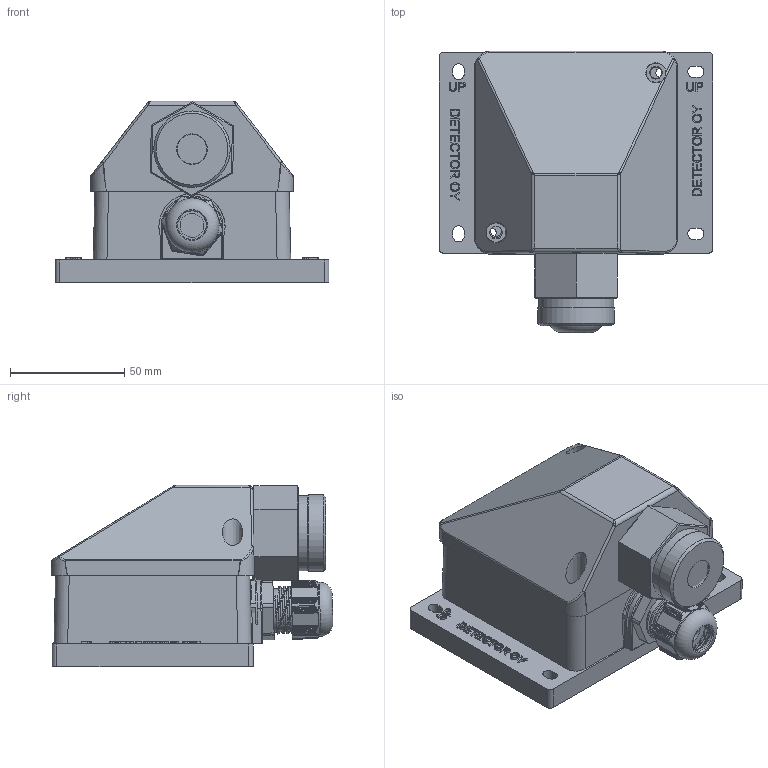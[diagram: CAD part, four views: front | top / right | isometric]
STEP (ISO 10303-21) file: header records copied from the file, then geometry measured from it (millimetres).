
FILE_DESCRIPTION(/* description */ (''),/* implementation_level */ '2;1');
FILE_NAME(/* name */ 'VARIO (cat).step',/* time_stamp */ '2026-06-29T12:50:24+03:00',/* author */ (''),/* organization */ (''),/* preprocessor_version */ 'ST-DEVELOPER v20.1',/* originating_system */ 'Autodesk Translation Framework v15.8.0.0',/* authorisation */ '');
FILE_SCHEMA (('AUTOMOTIVE_DESIGN { 1 0 10303 214 3 1 1 }'));
Length unit declared in the file: millimetre
Products named in the file (9): 2026-06-22-15-26-52-673; 311 kotelo _ Detector; NONE; Vinokansi K40; 2026-06-22-16-22-14-972; 2026-06-23-10-21-11-041; 1; 2; 3
Assembly tree (8 placements, depth 3):
  2026-06-22-15-26-52-673
    311 kotelo _ Detector
    NONE
    Vinokansi K40
    2026-06-22-16-22-14-972
    2026-06-23-10-21-11-041
      1
      2
      3
Bounding box: 120 x 123.39 x 79.5 mm (x, y, z)
Volume: 225407.6 mm3; surface area: 107678.7 mm2
Topology: 7 solids, 7 shells, 1190 faces, 3105 edges, 1998 vertices
Faces by surface type: plane 515, cylinder 328, bspline 276, cone 30, sphere 22, torus 19
Full cylindrical faces by diameter (mm): 2.5 x2, 3 x2, 4 x5, 5 x3, 5.5 x4, 6 x2, 9 x3, 10 x2, 12.5 x1, 12.6 x1, 13 x1, 17 x1, 17.92 x1, 18 x1, 18.95 x2, 19 x4, 20 x1, 20.8 x3, 21.5 x3, 22.5 x1, 23.7 x1, 29 x1, 32.9 x1, 33.5 x1, 73 x1
Entity records: 42947 total; most frequent: CARTESIAN_POINT 15240, ORIENTED_EDGE 6166, DIRECTION 4870, EDGE_CURVE 3083, VERTEX_POINT 1998, LINE 1718, VECTOR 1718, AXIS2_PLACEMENT_3D 1576
